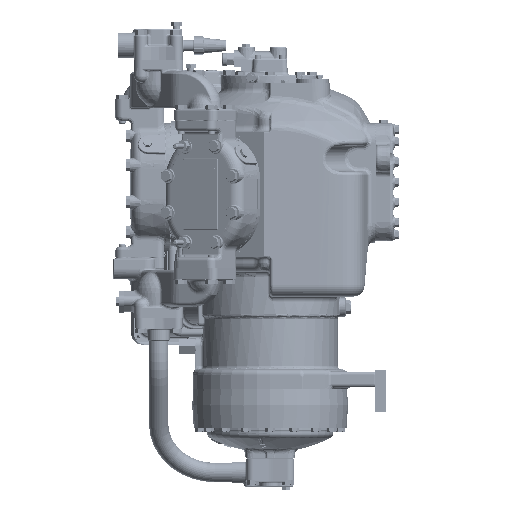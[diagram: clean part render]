
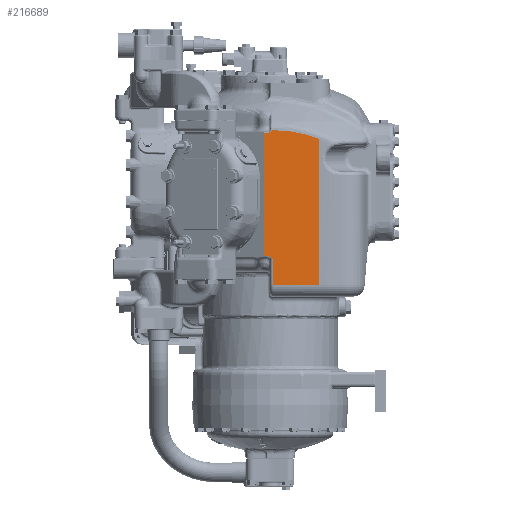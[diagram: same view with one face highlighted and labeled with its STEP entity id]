
A CAD part, left-side view. The second image highlights one B-rep face of the part: STEP entity #216689.
In plain terms, the highlighted planar face has unit normal (-1, -0.033, 0).
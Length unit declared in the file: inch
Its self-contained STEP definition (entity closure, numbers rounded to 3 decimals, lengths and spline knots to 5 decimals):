
#39650=DIRECTION('',(0.,0.,1.));
#39651=VECTOR('',#39650,10.44021);
#39652=CARTESIAN_POINT('',(-7.75771,-3.50269,-7.24));
#39653=LINE('',#39652,#39651);
#39669=CARTESIAN_POINT('',(-7.86594,-0.20656,
-7.24));
#39680=DIRECTION('',(-0.033,0.999,0.));
#39681=VECTOR('',#39680,3.2979);
#39682=CARTESIAN_POINT('',(-7.75771,-3.50269,-7.24));
#39683=LINE('',#39682,#39681);
#40299=DIRECTION('',(0.,0.,1.));
#40300=VECTOR('',#40299,8.814);
#40301=CARTESIAN_POINT('',(-7.88807,0.46746,-5.157));
#40302=LINE('',#40301,#40300);
#40303=DIRECTION('',(0.033,-0.999,0.));
#40304=VECTOR('',#40303,0.35483);
#40305=CARTESIAN_POINT('',(-7.88807,0.46746,3.657));
#40306=LINE('',#40305,#40304);
#40307=CARTESIAN_POINT('',(-7.87643,0.11282,
3.657));
#40308=CARTESIAN_POINT('',(-7.87608,0.10216,
3.657));
#40309=CARTESIAN_POINT('',(-7.87542,0.082,
3.65869));
#40310=CARTESIAN_POINT('',(-7.87454,0.05531,
3.66474));
#40311=CARTESIAN_POINT('',(-7.87377,0.03201,
3.6731));
#40312=CARTESIAN_POINT('',(-7.87311,0.01178,
3.68288));
#40313=CARTESIAN_POINT('',(-7.87254,-0.00573,
3.69344));
#40314=CARTESIAN_POINT('',(-7.87204,-0.02088,
3.70432));
#40315=CARTESIAN_POINT('',(-7.87161,-0.03401,
3.7152));
#40316=CARTESIAN_POINT('',(-7.87123,-0.04543,
3.72585));
#40317=CARTESIAN_POINT('',(-7.8709,-0.05539,
3.73614));
#40318=CARTESIAN_POINT('',(-7.87062,-0.06412,
3.74597));
#40319=CARTESIAN_POINT('',(-7.87037,-0.07182,
3.75529));
#40320=CARTESIAN_POINT('',(-7.87014,-0.07863,
3.76408));
#40321=CARTESIAN_POINT('',(-7.86994,-0.0847,
3.77233));
#40322=CARTESIAN_POINT('',(-7.86976,-0.09014,
3.78005));
#40323=CARTESIAN_POINT('',(-7.8696,-0.09505,
3.78724));
#40324=CARTESIAN_POINT('',(-7.86946,-0.09949,
3.79394));
#40325=CARTESIAN_POINT('',(-7.86932,-0.10352,
3.80016));
#40326=CARTESIAN_POINT('',(-7.8692,-0.10722,
3.80593));
#40327=CARTESIAN_POINT('',(-7.86909,-0.11061,
3.81127));
#40328=CARTESIAN_POINT('',(-7.86899,-0.11377,
3.8162));
#40329=CARTESIAN_POINT('',(-7.86889,-0.11673,
3.82073));
#40330=CARTESIAN_POINT('',(-7.8688,-0.11956,
3.82486));
#40331=CARTESIAN_POINT('',(-7.86871,-0.12235,
3.82855));
#40332=CARTESIAN_POINT('',(-7.86862,-0.12504,
3.8318));
#40333=CARTESIAN_POINT('',(-7.8685,-0.12877,
3.83386));
#40334=CARTESIAN_POINT('',(-7.86838,-0.13227,
3.83266));
#40335=CARTESIAN_POINT('',(-7.86829,-0.13516,
3.82942));
#40336=CARTESIAN_POINT('',(-7.8682,-0.13771,
3.82615));
#40337=CARTESIAN_POINT('',(-7.86814,-0.13955,
3.8235));
#40338=CARTESIAN_POINT('',(-7.86811,-0.14049,
3.82211));
#40340=DIRECTION('',(0.,0.,-1.));
#40341=VECTOR('',#40340,1.82);
#40342=CARTESIAN_POINT('',(-7.86594,-0.20656,-5.42));
#40343=LINE('',#40342,#40341);
#40344=CARTESIAN_POINT('',(-7.86594,-0.20656,-5.42));
#40345=CARTESIAN_POINT('',(-7.8667,-0.18331,
-5.38776));
#40346=CARTESIAN_POINT('',(-7.86817,-0.13874,
-5.3263));
#40347=CARTESIAN_POINT('',(-7.87056,-0.0659,
-5.2489));
#40348=CARTESIAN_POINT('',(-7.87315,0.01296,-5.19388));
#40349=CARTESIAN_POINT('',(-7.8758,0.0938,
-5.16297));
#40350=CARTESIAN_POINT('',(-7.87746,0.14426,
-5.15699));
#40351=CARTESIAN_POINT('',(-7.87827,0.16904,-5.157));
#40353=DIRECTION('',(-0.033,0.999,0.));
#40354=VECTOR('',#40353,0.29858);
#40355=CARTESIAN_POINT('',(-7.87827,0.16904,-5.157));
#40356=LINE('',#40355,#40354);
#40374=CARTESIAN_POINT('',(-7.88807,0.46746,-5.157));
#93345=CARTESIAN_POINT('',(-7.86594,-0.20656,-5.42));
#98002=CARTESIAN_POINT('',(-7.75771,-3.50269,
3.20021));
#98003=CARTESIAN_POINT('',(-7.76939,-3.14712,
3.34191));
#98004=CARTESIAN_POINT('',(-7.79314,-2.42382,
3.57713));
#98005=CARTESIAN_POINT('',(-7.83061,-1.28261,
3.78821));
#98006=CARTESIAN_POINT('',(-7.85555,-0.52313,
3.82725));
#98007=CARTESIAN_POINT('',(-7.86811,-0.14049,
3.82211));
#171518=CARTESIAN_POINT('',(-7.75771,-3.50269,
3.20021));
#171520=VERTEX_POINT('',#171518);
#171651=CARTESIAN_POINT('',(-7.75771,-3.50269,-7.24));
#171652=VERTEX_POINT('',#171651);
#172051=VERTEX_POINT('',#39669);
#172092=VERTEX_POINT('',#40307);
#172093=VERTEX_POINT('',#40338);
#172096=VERTEX_POINT('',#93345);
#172098=VERTEX_POINT('',#40351);
#173389=VERTEX_POINT('',#40374);
#173398=CARTESIAN_POINT('',(-7.88807,0.46746,3.657));
#173399=VERTEX_POINT('',#173398);
#216667=CARTESIAN_POINT('',(-7.87272,0.,-8.04));
#216668=DIRECTION('',(-0.999,-0.033,0.));
#216669=DIRECTION('',(0.033,-0.999,0.));
#216670=AXIS2_PLACEMENT_3D('',#216667,#216668,#216669);
#216671=PLANE('',#216670);
#216673=ORIENTED_EDGE('',*,*,#216672,.T.);
#216675=ORIENTED_EDGE('',*,*,#216674,.T.);
#216676=ORIENTED_EDGE('',*,*,#216657,.T.);
#216678=ORIENTED_EDGE('',*,*,#216677,.F.);
#216679=ORIENTED_EDGE('',*,*,#215367,.F.);
#216680=ORIENTED_EDGE('',*,*,#215404,.T.);
#216682=ORIENTED_EDGE('',*,*,#216681,.F.);
#216684=ORIENTED_EDGE('',*,*,#216683,.T.);
#216686=ORIENTED_EDGE('',*,*,#216685,.T.);
#216687=EDGE_LOOP('',(#216673,#216675,#216676,#216678,#216679,#216680,#216682,
#216684,#216686));
#216688=FACE_OUTER_BOUND('',#216687,.F.);
#216689=ADVANCED_FACE('',(#216688),#216671,.T.);
#40339=B_SPLINE_CURVE_WITH_KNOTS('',3,(#40307,#40308,#40309,#40310,#40311,
#40312,#40313,#40314,#40315,#40316,#40317,#40318,#40319,#40320,#40321,#40322,
#40323,#40324,#40325,#40326,#40327,#40328,#40329,#40330,#40331,#40332,#40333,
#40334,#40335,#40336,#40337,#40338),.UNSPECIFIED.,.F.,.F.,(4,1,1,1,1,1,1,1,1,1,
1,1,1,1,1,1,1,1,1,1,1,1,1,1,1,1,1,1,1,4),(0.,0.03448,
0.06897,0.10345,0.13793,0.17241,
0.2069,0.24138,0.27586,0.31034,
0.34483,0.37931,0.41379,0.44828,
0.48276,0.51724,0.55172,0.58621,
0.62069,0.65517,0.68966,0.72414,
0.75862,0.7931,0.82759,0.86207,
0.89655,0.93103,0.96552,1.),.UNSPECIFIED.);
#40352=B_SPLINE_CURVE_WITH_KNOTS('',3,(#40344,#40345,#40346,#40347,#40348,
#40349,#40350,#40351),.UNSPECIFIED.,.F.,.F.,(4,1,1,1,1,4),(0.,0.2,0.4,
0.6,0.8,1.),.UNSPECIFIED.);
#98008=B_SPLINE_CURVE_WITH_KNOTS('',3,(#98002,#98003,#98004,#98005,#98006,
#98007),.UNSPECIFIED.,.F.,.F.,(4,1,1,4),(0.,0.33333,
0.66667,1.),.UNSPECIFIED.);
#215367=EDGE_CURVE('',#171652,#171520,#39653,.T.);
#215404=EDGE_CURVE('',#171652,#172051,#39683,.T.);
#216657=EDGE_CURVE('',#172092,#172093,#40339,.T.);
#216672=EDGE_CURVE('',#173389,#173399,#40302,.T.);
#216674=EDGE_CURVE('',#173399,#172092,#40306,.T.);
#216677=EDGE_CURVE('',#171520,#172093,#98008,.T.);
#216681=EDGE_CURVE('',#172096,#172051,#40343,.T.);
#216683=EDGE_CURVE('',#172096,#172098,#40352,.T.);
#216685=EDGE_CURVE('',#172098,#173389,#40356,.T.);
